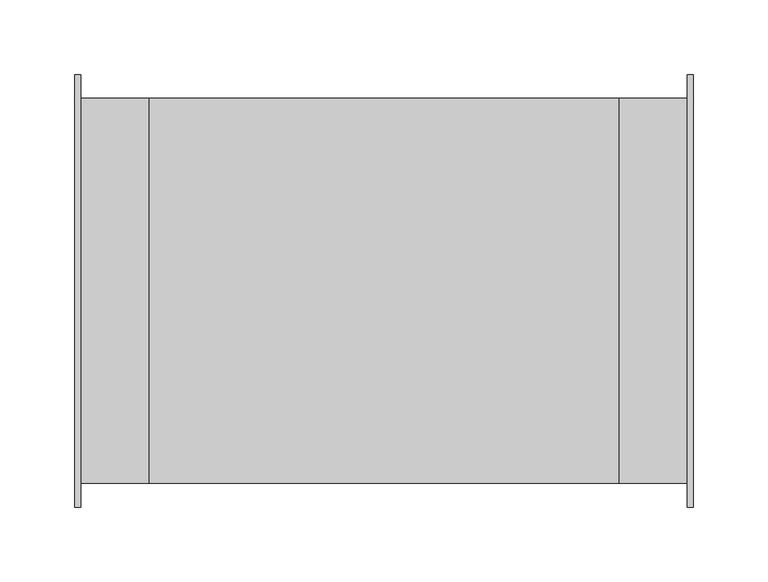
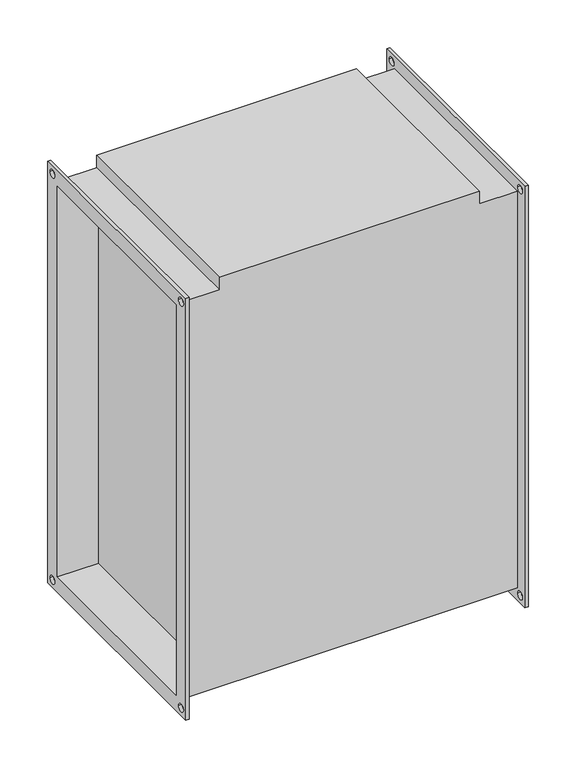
"""IFC4 building model written with IfcOpenShell, lengths in millimetres: proxy geometry, СВ_ВоздухонагревательЭлектрический_КанальныйПрямоугольный_200-1000_SPH-E : SPH-E-500x250/15."""

from ifc_helpers import new_model, si_unit, frame, origin, place, context, project, spatial, polyline, circle_curve, source, transform, mapped, element, save
from ifc_brep_helpers import plane_surface, revolved_surface, advanced_brep


def mechanical_equipment_df9b83cb(model_context):
    return source(origin(), model_context, "Body", "AdvancedBrep", [
        advanced_brep(
        [(-157.5, -129.0, 254.0), (-203.5, -129.0, 254.0), (-203.5, -129.0, -254.0), (203.5, -129.0, -254.0), (203.5, -129.0, 254.0), (157.5, -129.0, 254.0), (157.5, -129.0, 270.0), (-157.5, -129.0, 270.0), (-203.5, 129.0, -254.0), (203.5, 129.0, -254.0), (-203.5, 129.0, 254.0), (-157.5, 129.0, 254.0), (-157.5, 129.0, 270.0), (157.5, 129.0, 270.0), (157.5, 129.0, 254.0), (203.5, 129.0, 254.0), (157.5, 125.0, -250.0), (157.5, 125.0, 250.0), (157.5, -125.0, 250.0), (157.5, -125.0, -250.0), (-157.5, -125.0, 250.0), (-157.5, 125.0, 250.0), (-157.5, 125.0, -250.0), (-157.5, -125.0, -250.0), (-207.5, -145.0, 270.0), (-207.5, 145.0, 270.0), (-207.5, 145.0, -270.0), (-207.5, -145.0, -270.0), (-207.5, -125.0, 250.0), (-207.5, -125.0, -250.0), (-207.5, 125.0, -250.0), (-207.5, 125.0, 250.0), (-207.5, 130.0, 260.0), (-207.5, 140.0, 260.0), (-207.5, -140.0, 260.0), (-207.5, -130.0, 260.0), (-207.5, -140.0, -260.0), (-207.5, -130.0, -260.0), (-207.5, 130.0, -260.0), (-207.5, 140.0, -260.0), (-203.5, -145.0, 270.0), (-203.5, -145.0, -270.0), (-203.5, 145.0, -270.0), (-203.5, 145.0, 270.0), (-203.5, 140.0, 260.0), (-203.5, 130.0, 260.0), (-203.5, -130.0, 260.0), (-203.5, -140.0, 260.0), (-203.5, -130.0, -260.0), (-203.5, -140.0, -260.0), (-203.5, 140.0, -260.0), (-203.5, 130.0, -260.0), (203.5, 145.0, 270.0), (203.5, 145.0, -270.0), (203.5, -145.0, -270.0), (203.5, -145.0, 270.0), (203.5, 130.0, 260.0), (203.5, 140.0, 260.0), (203.5, -140.0, 260.0), (203.5, -130.0, 260.0), (203.5, -140.0, -260.0), (203.5, -130.0, -260.0), (203.5, 130.0, -260.0), (203.5, 140.0, -260.0), (207.5, 145.0, 270.0), (207.5, -145.0, 270.0), (207.5, -145.0, -270.0), (207.5, 145.0, -270.0), (207.5, 125.0, 250.0), (207.5, 125.0, -250.0), (207.5, -125.0, -250.0), (207.5, -125.0, 250.0), (207.5, 140.0, 260.0), (207.5, 130.0, 260.0), (207.5, -130.0, 260.0), (207.5, -140.0, 260.0), (207.5, -130.0, -260.0), (207.5, -140.0, -260.0), (207.5, 140.0, -260.0), (207.5, 130.0, -260.0)],
        [
            (0, 1),
            (1, 2),
            (2, 3),
            (3, 4),
            (4, 5),
            (5, 6),
            (6, 7),
            (7, 0),
            (2, 8),
            (8, 9),
            (9, 3),
            (10, 11),
            (11, 12),
            (12, 13),
            (13, 14),
            (14, 15),
            (15, 9),
            (8, 10),
            (0, 11),
            (10, 1),
            (13, 6),
            (5, 14),
            (16, 17),
            (17, 18),
            (18, 19),
            (19, 16),
            (7, 12),
            (20, 21),
            (21, 22),
            (22, 23),
            (23, 20),
            (4, 15),
            (24, 25),
            (25, 26),
            (26, 27),
            (27, 24),
            (28, 29),
            (29, 30),
            (30, 31),
            (31, 28),
            (32, 33, circle_curve(frame((-207.5, 135.0, 260.0), z_axis=(1.0, 0.0, 0.0), x_axis=(0.0, 1.0, 0.0)), 5.0)),
            (33, 32, circle_curve(frame((-207.5, 135.0, 260.0), z_axis=(1.0, 0.0, 0.0), x_axis=(0.0, 1.0, 0.0)), 5.0)),
            (34, 35, circle_curve(frame((-207.5, -135.0, 260.0), z_axis=(1.0, 0.0, 0.0), x_axis=(0.0, 1.0, 0.0)), 5.0)),
            (35, 34, circle_curve(frame((-207.5, -135.0, 260.0), z_axis=(1.0, 0.0, 0.0), x_axis=(0.0, 1.0, 0.0)), 5.0)),
            (36, 37, circle_curve(frame((-207.5, -135.0, -260.0), z_axis=(1.0, 0.0, 0.0), x_axis=(0.0, 1.0, 0.0)), 5.0)),
            (37, 36, circle_curve(frame((-207.5, -135.0, -260.0), z_axis=(1.0, 0.0, 0.0), x_axis=(0.0, 1.0, 0.0)), 5.0)),
            (38, 39, circle_curve(frame((-207.5, 135.0, -260.0), z_axis=(1.0, 0.0, 0.0), x_axis=(0.0, 1.0, 0.0)), 5.0)),
            (39, 38, circle_curve(frame((-207.5, 135.0, -260.0), z_axis=(1.0, 0.0, 0.0), x_axis=(0.0, 1.0, 0.0)), 5.0)),
            (40, 41),
            (41, 42),
            (42, 43),
            (43, 40),
            (44, 45, circle_curve(frame((-203.5, 135.0, 260.0), z_axis=(-1.0, 0.0, 0.0), x_axis=(0.0, 1.0, 0.0)), 5.0)),
            (45, 44, circle_curve(frame((-203.5, 135.0, 260.0), z_axis=(-1.0, 0.0, 0.0), x_axis=(0.0, 1.0, 0.0)), 5.0)),
            (46, 47, circle_curve(frame((-203.5, -135.0, 260.0), z_axis=(-1.0, 0.0, 0.0), x_axis=(0.0, 1.0, 0.0)), 5.0)),
            (47, 46, circle_curve(frame((-203.5, -135.0, 260.0), z_axis=(-1.0, 0.0, 0.0), x_axis=(0.0, 1.0, 0.0)), 5.0)),
            (48, 49, circle_curve(frame((-203.5, -135.0, -260.0), z_axis=(-1.0, 0.0, 0.0), x_axis=(0.0, 1.0, 0.0)), 5.0)),
            (49, 48, circle_curve(frame((-203.5, -135.0, -260.0), z_axis=(-1.0, 0.0, 0.0), x_axis=(0.0, 1.0, 0.0)), 5.0)),
            (50, 51, circle_curve(frame((-203.5, 135.0, -260.0), z_axis=(-1.0, 0.0, 0.0), x_axis=(0.0, 1.0, 0.0)), 5.0)),
            (51, 50, circle_curve(frame((-203.5, 135.0, -260.0), z_axis=(-1.0, 0.0, 0.0), x_axis=(0.0, 1.0, 0.0)), 5.0)),
            (27, 41),
            (40, 24),
            (26, 42),
            (25, 43),
            (52, 53),
            (53, 54),
            (54, 55),
            (55, 52),
            (56, 57, circle_curve(frame((203.5, 135.0, 260.0), z_axis=(1.0, 0.0, 0.0), x_axis=(0.0, 1.0, 0.0)), 5.0)),
            (57, 56, circle_curve(frame((203.5, 135.0, 260.0), z_axis=(1.0, 0.0, 0.0), x_axis=(0.0, 1.0, 0.0)), 5.0)),
            (58, 59, circle_curve(frame((203.5, -135.0, 260.0), z_axis=(1.0, 0.0, 0.0), x_axis=(0.0, 1.0, 0.0)), 5.0)),
            (59, 58, circle_curve(frame((203.5, -135.0, 260.0), z_axis=(1.0, 0.0, 0.0), x_axis=(0.0, 1.0, 0.0)), 5.0)),
            (60, 61, circle_curve(frame((203.5, -135.0, -260.0), z_axis=(1.0, 0.0, 0.0), x_axis=(0.0, 1.0, 0.0)), 5.0)),
            (61, 60, circle_curve(frame((203.5, -135.0, -260.0), z_axis=(1.0, 0.0, 0.0), x_axis=(0.0, 1.0, 0.0)), 5.0)),
            (62, 63, circle_curve(frame((203.5, 135.0, -260.0), z_axis=(1.0, 0.0, 0.0), x_axis=(0.0, 1.0, 0.0)), 5.0)),
            (63, 62, circle_curve(frame((203.5, 135.0, -260.0), z_axis=(1.0, 0.0, 0.0), x_axis=(0.0, 1.0, 0.0)), 5.0)),
            (64, 65),
            (65, 66),
            (66, 67),
            (67, 64),
            (68, 69),
            (69, 70),
            (70, 71),
            (71, 68),
            (72, 73, circle_curve(frame((207.5, 135.0, 260.0), z_axis=(-1.0, 0.0, 0.0), x_axis=(0.0, 1.0, 0.0)), 5.0)),
            (73, 72, circle_curve(frame((207.5, 135.0, 260.0), z_axis=(-1.0, 0.0, 0.0), x_axis=(0.0, 1.0, 0.0)), 5.0)),
            (74, 75, circle_curve(frame((207.5, -135.0, 260.0), z_axis=(-1.0, 0.0, 0.0), x_axis=(0.0, 1.0, 0.0)), 5.0)),
            (75, 74, circle_curve(frame((207.5, -135.0, 260.0), z_axis=(-1.0, 0.0, 0.0), x_axis=(0.0, 1.0, 0.0)), 5.0)),
            (76, 77, circle_curve(frame((207.5, -135.0, -260.0), z_axis=(-1.0, 0.0, 0.0), x_axis=(0.0, 1.0, 0.0)), 5.0)),
            (77, 76, circle_curve(frame((207.5, -135.0, -260.0), z_axis=(-1.0, 0.0, 0.0), x_axis=(0.0, 1.0, 0.0)), 5.0)),
            (78, 79, circle_curve(frame((207.5, 135.0, -260.0), z_axis=(-1.0, 0.0, 0.0), x_axis=(0.0, 1.0, 0.0)), 5.0)),
            (79, 78, circle_curve(frame((207.5, 135.0, -260.0), z_axis=(-1.0, 0.0, 0.0), x_axis=(0.0, 1.0, 0.0)), 5.0)),
            (55, 65),
            (64, 52),
            (54, 66),
            (53, 67),
            (31, 21),
            (20, 28),
            (30, 22),
            (29, 23),
            (68, 17),
            (16, 69),
            (19, 70),
            (18, 71),
            (32, 45),
            (44, 33),
            (56, 73),
            (72, 57),
            (34, 47),
            (46, 35),
            (58, 75),
            (74, 59),
            (36, 49),
            (48, 37),
            (60, 77),
            (76, 61),
            (38, 51),
            (50, 39),
            (62, 79),
            (78, 63),
        ],
        [
            plane_surface(frame((-157.5, -129.0, 254.0), z_axis=(0.0, -1.0, 0.0), x_axis=(-1.0, 0.0, 0.0))),
            plane_surface(frame((-157.5, -129.0, -254.0), z_axis=(0.0, 0.0, -1.0), x_axis=(-1.0, 0.0, 0.0))),
            plane_surface(frame((-157.5, 129.0, -254.0), z_axis=(0.0, 1.0, 0.0), x_axis=(-1.0, 0.0, 0.0))),
            plane_surface(frame((-157.5, 129.0, 254.0), z_axis=(0.0, 0.0, 1.0), x_axis=(-1.0, 0.0, 0.0))),
            plane_surface(frame((157.5, -129.0, 270.0), z_axis=(1.0, 0.0, 0.0), x_axis=(0.0, 0.0, -1.0))),
            plane_surface(frame((-157.5, -129.0, 270.0), z_axis=(-1.0, 0.0, 0.0), x_axis=(0.0, 0.0, 1.0))),
            plane_surface(frame((157.5, 129.0, 270.0), z_axis=(0.0, 0.0, 1.0), x_axis=(-1.0, 0.0, 0.0))),
            plane_surface(frame((203.5, 129.0, 254.0), z_axis=(0.0, 0.0, 1.0), x_axis=(-1.0, 0.0, 0.0))),
            plane_surface(frame((-207.5, -145.0, 270.0), z_axis=(-1.0, 0.0, 0.0), x_axis=(0.0, 0.0, 1.0))),
            plane_surface(frame((-203.5, -145.0, 270.0), z_axis=(1.0, 0.0, 0.0), x_axis=(0.0, 0.0, -1.0))),
            plane_surface(frame((-203.5, -145.0, 270.0), z_axis=(0.0, -1.0, 0.0), x_axis=(-1.0, 0.0, 0.0))),
            plane_surface(frame((-203.5, -145.0, -270.0), z_axis=(0.0, 0.0, -1.0), x_axis=(-1.0, 0.0, 0.0))),
            plane_surface(frame((-203.5, 145.0, -270.0), z_axis=(0.0, 1.0, 0.0), x_axis=(-1.0, 0.0, 0.0))),
            plane_surface(frame((-203.5, 145.0, 270.0), z_axis=(0.0, 0.0, 1.0), x_axis=(-1.0, 0.0, 0.0))),
            plane_surface(frame((203.5, 125.0, -250.0), z_axis=(-1.0, 0.0, 0.0), x_axis=(0.0, 0.0, 1.0))),
            plane_surface(frame((207.5, 125.0, -250.0), z_axis=(1.0, 0.0, 0.0), x_axis=(0.0, 0.0, -1.0))),
            plane_surface(frame((207.5, 145.0, 270.0), z_axis=(0.0, 0.0, 1.0), x_axis=(-1.0, 0.0, 0.0))),
            plane_surface(frame((207.5, -145.0, 270.0), z_axis=(0.0, -1.0, 0.0), x_axis=(-1.0, 0.0, 0.0))),
            plane_surface(frame((207.5, -145.0, -270.0), z_axis=(0.0, 0.0, -1.0), x_axis=(-1.0, 0.0, 0.0))),
            plane_surface(frame((207.5, 145.0, -270.0), z_axis=(0.0, 1.0, 0.0), x_axis=(-1.0, 0.0, 0.0))),
            plane_surface(frame((-203.5, -125.0, 250.0), z_axis=(0.0, 0.0, -1.0), x_axis=(-1.0, 0.0, 0.0))),
            plane_surface(frame((-203.5, 125.0, 250.0), z_axis=(0.0, -1.0, 0.0), x_axis=(-1.0, 0.0, 0.0))),
            plane_surface(frame((-203.5, 125.0, -250.0), z_axis=(0.0, 0.0, 1.0), x_axis=(-1.0, 0.0, 0.0))),
            plane_surface(frame((-203.5, -125.0, -250.0), z_axis=(0.0, 1.0, 0.0), x_axis=(-1.0, 0.0, 0.0))),
            plane_surface(frame((207.5, 125.0, 250.0), z_axis=(0.0, -1.0, 0.0), x_axis=(-1.0, 0.0, 0.0))),
            plane_surface(frame((207.5, 125.0, -250.0), z_axis=(0.0, 0.0, 1.0), x_axis=(-1.0, 0.0, 0.0))),
            plane_surface(frame((207.5, -125.0, -250.0), z_axis=(0.0, 1.0, 0.0), x_axis=(-1.0, 0.0, 0.0))),
            plane_surface(frame((207.5, -125.0, 250.0), z_axis=(0.0, 0.0, -1.0), x_axis=(-1.0, 0.0, 0.0))),
            revolved_surface(polyline([(-203.5, 140.0, 260.0), (-207.5, 140.0, 260.0)]), (-207.5, 135.0, 260.0), (1.0, 0.0, 0.0)),
            revolved_surface(polyline([(207.5, 140.0, 260.0), (203.5, 140.0, 260.0)]), (-207.5, 135.0, 260.0), (1.0, 0.0, 0.0)),
            revolved_surface(polyline([(-203.5, -130.0, 260.0), (-207.5, -130.0, 260.0)]), (0.0, -135.0, 260.0), (1.0, 0.0, 0.0)),
            revolved_surface(polyline([(207.5, -130.0, 260.0), (203.5, -130.0, 260.0)]), (0.0, -135.0, 260.0), (1.0, 0.0, 0.0)),
            revolved_surface(polyline([(-203.5, -130.0, -260.0), (-207.5, -130.0, -260.0)]), (0.0, -135.0, -260.0), (1.0, 0.0, 0.0)),
            revolved_surface(polyline([(207.5, -130.0, -260.0), (203.5, -130.0, -260.0)]), (0.0, -135.0, -260.0), (1.0, 0.0, 0.0)),
            revolved_surface(polyline([(-203.5, 140.0, -260.0), (-207.5, 140.0, -260.0)]), (0.0, 135.0, -260.0), (1.0, 0.0, 0.0)),
            revolved_surface(polyline([(207.5, 140.0, -260.0), (203.5, 140.0, -260.0)]), (0.0, 135.0, -260.0), (1.0, 0.0, 0.0)),
        ],
        [
            (0, [[1, 2, 3, 4, 5, 6, 7, 8]]),
            (1, [[-3, 9, 10, 11]]),
            (2, [[12, 13, 14, 15, 16, 17, -10, 18]]),
            (3, [[-1, 19, -12, 20]]),
            (4, [[21, -6, 22, -15]]),
            (4, [[23, 24, 25, 26]]),
            (5, [[27, -13, -19, -8]]),
            (5, [[28, 29, 30, 31]]),
            (6, [[-21, -14, -27, -7]]),
            (7, [[-5, 32, -16, -22]]),
            (8, [[33, 34, 35, 36], [37, 38, 39, 40], [41, 42], [43, 44], [45, 46], [47, 48]]),
            (9, [[49, 50, 51, 52], [-2, -20, -18, -9], [53, 54], [55, 56], [57, 58], [59, 60]]),
            (10, [[-36, 61, -49, 62]]),
            (11, [[-35, 63, -50, -61]]),
            (12, [[-34, 64, -51, -63]]),
            (13, [[-33, -62, -52, -64]]),
            (14, [[65, 66, 67, 68], [-4, -11, -17, -32], [69, 70], [71, 72], [73, 74], [75, 76]]),
            (15, [[77, 78, 79, 80], [81, 82, 83, 84], [85, 86], [87, 88], [89, 90], [91, 92]]),
            (16, [[-68, 93, -77, 94]]),
            (17, [[-67, 95, -78, -93]]),
            (18, [[-66, 96, -79, -95]]),
            (19, [[-65, -94, -80, -96]]),
            (20, [[-40, 97, -28, 98]]),
            (21, [[-39, 99, -29, -97]]),
            (22, [[-38, 100, -30, -99]]),
            (23, [[-37, -98, -31, -100]]),
            (24, [[-81, 101, -23, 102]]),
            (25, [[-82, -102, -26, 103]]),
            (26, [[-83, -103, -25, 104]]),
            (27, [[-101, -84, -104, -24]]),
            (28, [[105, -53, 106, -41]]),
            (29, [[107, -85, 108, -69]]),
            (28, [[-105, -42, -106, -54]]),
            (29, [[-107, -70, -108, -86]]),
            (30, [[109, -55, 110, -43]]),
            (31, [[111, -87, 112, -71]]),
            (30, [[-109, -44, -110, -56]]),
            (31, [[-111, -72, -112, -88]]),
            (32, [[113, -57, 114, -45]]),
            (33, [[115, -89, 116, -73]]),
            (32, [[-113, -46, -114, -58]]),
            (33, [[-115, -74, -116, -90]]),
            (34, [[117, -59, 118, -47]]),
            (35, [[119, -91, 120, -75]]),
            (34, [[-117, -48, -118, -60]]),
            (35, [[-119, -76, -120, -92]]),
        ],
    ),
    ])


if __name__ == "__main__":
    model = new_model("IFC4")
    model_context = context("Model", 3, world=origin())
    ifc_project = project(units=[si_unit("LENGTHUNIT", "METRE", prefix="MILLI")], contexts=[model_context])
    site = spatial("IfcSite", under=ifc_project)
    building = spatial("IfcBuilding", under=site)
    placement = place(None, origin())
    mechanical_equipment_shape = mechanical_equipment_df9b83cb(model_context)
    element("IfcBuildingElementProxy", 1, Name="СВ_ВоздухонагревательЭлектрический_КанальныйПрямоугольный_200-1000_SPH-E : SPH-E-500x250/15", ObjectType="СВ_ВоздухонагревательЭлектрический_КанальныйПрямоугольный_200-1000_SPH-E : SPH-E-500x250/15", at=placement, inside=building, context=model_context, shape_type="MappedRepresentation", body=[
        mapped(mechanical_equipment_shape, transform((0.0, 0.0, 0.0), x_axis=(1.0, 0.0, 0.0), y_axis=(0.0, 1.0, 0.0), z_axis=(0.0, 0.0, 1.0))),
    ])
    save(model, "model.ifc")
